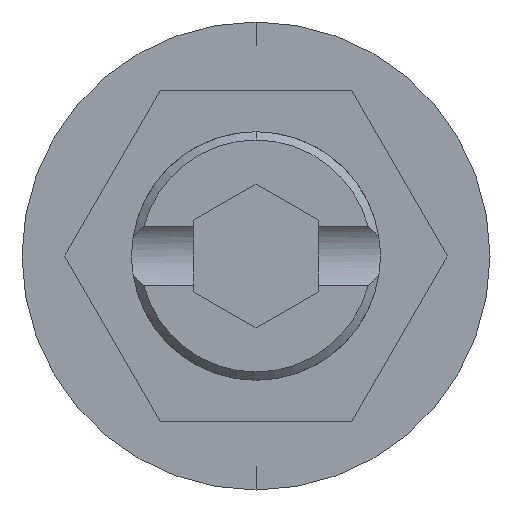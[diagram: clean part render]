
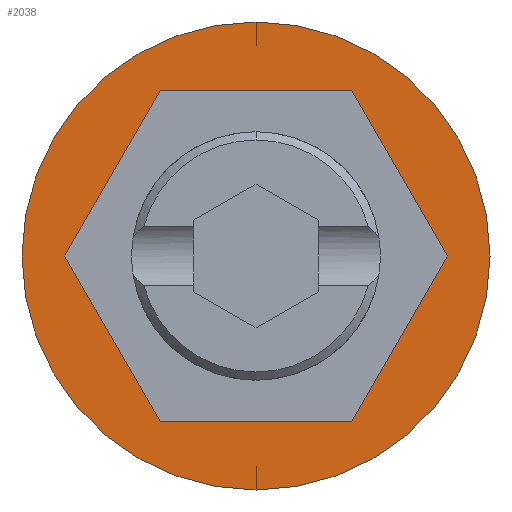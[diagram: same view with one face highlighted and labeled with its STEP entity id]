
A CAD part, front view. The second image highlights one B-rep face of the part: STEP entity #2038.
In plain terms, the highlighted planar face has unit normal (0, -1, 0).
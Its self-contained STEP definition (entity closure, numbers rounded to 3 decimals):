
#51 = CARTESIAN_POINT ( 'NONE',  ( -4.619, 0., 0. ) ) ;
#54 = EDGE_CURVE ( 'NONE', #1698, #853, #1456, .T. ) ;
#89 = AXIS2_PLACEMENT_3D ( 'NONE', #1037, #1406, #1518 ) ;
#155 = VERTEX_POINT ( 'NONE', #1702 ) ;
#162 = CARTESIAN_POINT ( 'NONE',  ( 4.619, 0., 0. ) ) ;
#216 = DIRECTION ( 'NONE',  ( 0.5, 0., -0.866 ) ) ;
#235 = CARTESIAN_POINT ( 'NONE',  ( -4.619, 0., 0. ) ) ;
#281 = VECTOR ( 'NONE', #382, 1000. ) ;
#329 = EDGE_CURVE ( 'NONE', #333, #155, #1865, .T. ) ;
#333 = VERTEX_POINT ( 'NONE', #51 ) ;
#337 = LINE ( 'NONE', #2066, #281 ) ;
#374 = ORIENTED_EDGE ( 'NONE', *, *, #54, .T. ) ;
#382 = DIRECTION ( 'NONE',  ( -0.5, 0., -0.866 ) ) ;
#394 = EDGE_CURVE ( 'NONE', #1560, #1094, #1758, .T. ) ;
#413 = VECTOR ( 'NONE', #1322, 1000. ) ;
#520 = AXIS2_PLACEMENT_3D ( 'NONE', #926, #935, #969 ) ;
#550 = CARTESIAN_POINT ( 'NONE',  ( 2.309, 0., 4. ) ) ;
#567 = CARTESIAN_POINT ( 'NONE',  ( 0., 0., -5.65 ) ) ;
#569 = EDGE_CURVE ( 'NONE', #940, #1562, #1436, .T. ) ;
#735 = FACE_BOUND ( 'NONE', #2113, .T. ) ;
#755 = CARTESIAN_POINT ( 'NONE',  ( 4.619, 0., 0. ) ) ;
#804 = PLANE ( 'NONE',  #1578 ) ;
#808 = ORIENTED_EDGE ( 'NONE', *, *, #569, .F. ) ;
#853 = VERTEX_POINT ( 'NONE', #567 ) ;
#866 = VECTOR ( 'NONE', #1744, 1000. ) ;
#883 = ORIENTED_EDGE ( 'NONE', *, *, #1626, .F. ) ;
#905 = ORIENTED_EDGE ( 'NONE', *, *, #329, .F. ) ;
#912 = ORIENTED_EDGE ( 'NONE', *, *, #1215, .T. ) ;
#926 = CARTESIAN_POINT ( 'NONE',  ( 0., 0., 0. ) ) ;
#935 = DIRECTION ( 'NONE',  ( 0., -1., 0. ) ) ;
#936 = ORIENTED_EDGE ( 'NONE', *, *, #1508, .F. ) ;
#940 = VERTEX_POINT ( 'NONE', #1469 ) ;
#969 = DIRECTION ( 'NONE',  ( 0., 0., -1. ) ) ;
#970 = CARTESIAN_POINT ( 'NONE',  ( -2.309, 0., 4. ) ) ;
#978 = VECTOR ( 'NONE', #216, 1000. ) ;
#1037 = CARTESIAN_POINT ( 'NONE',  ( 0., 0., 0. ) ) ;
#1046 = ORIENTED_EDGE ( 'NONE', *, *, #1342, .F. ) ;
#1094 = VERTEX_POINT ( 'NONE', #970 ) ;
#1133 = CARTESIAN_POINT ( 'NONE',  ( 2.309, 0., -4. ) ) ;
#1215 = EDGE_CURVE ( 'NONE', #853, #1698, #1615, .T. ) ;
#1267 = DIRECTION ( 'NONE',  ( -0.5, 0., 0.866 ) ) ;
#1309 = CARTESIAN_POINT ( 'NONE',  ( 0., 0., 0. ) ) ;
#1318 = DIRECTION ( 'NONE',  ( 0., -1., 0. ) ) ;
#1322 = DIRECTION ( 'NONE',  ( 1., 0., 0. ) ) ;
#1342 = EDGE_CURVE ( 'NONE', #1094, #333, #337, .T. ) ;
#1406 = DIRECTION ( 'NONE',  ( 0., -1., 0. ) ) ;
#1436 = LINE ( 'NONE', #1133, #1774 ) ;
#1456 = CIRCLE ( 'NONE', #89, 5.65 ) ;
#1469 = CARTESIAN_POINT ( 'NONE',  ( 2.309, 0., -4. ) ) ;
#1470 = DIRECTION ( 'NONE',  ( 0., 0., -1. ) ) ;
#1501 = CARTESIAN_POINT ( 'NONE',  ( -2.309, 0., -4. ) ) ;
#1508 = EDGE_CURVE ( 'NONE', #155, #940, #1737, .T. ) ;
#1518 = DIRECTION ( 'NONE',  ( 0., 0., -1. ) ) ;
#1546 = ORIENTED_EDGE ( 'NONE', *, *, #394, .F. ) ;
#1560 = VERTEX_POINT ( 'NONE', #550 ) ;
#1562 = VERTEX_POINT ( 'NONE', #162 ) ;
#1575 = CARTESIAN_POINT ( 'NONE',  ( 0., 0., 5.65 ) ) ;
#1578 = AXIS2_PLACEMENT_3D ( 'NONE', #1309, #1318, #1470 ) ;
#1615 = CIRCLE ( 'NONE', #520, 5.65 ) ;
#1626 = EDGE_CURVE ( 'NONE', #1562, #1560, #2025, .T. ) ;
#1639 = FACE_OUTER_BOUND ( 'NONE', #1700, .T. ) ;
#1698 = VERTEX_POINT ( 'NONE', #1575 ) ;
#1700 = EDGE_LOOP ( 'NONE', ( #912, #374 ) ) ;
#1702 = CARTESIAN_POINT ( 'NONE',  ( -2.309, 0., -4. ) ) ;
#1737 = LINE ( 'NONE', #1501, #413 ) ;
#1744 = DIRECTION ( 'NONE',  ( -1., 0., 0. ) ) ;
#1758 = LINE ( 'NONE', #1924, #866 ) ;
#1774 = VECTOR ( 'NONE', #2134, 1000. ) ;
#1865 = LINE ( 'NONE', #235, #978 ) ;
#1873 = VECTOR ( 'NONE', #1267, 1000. ) ;
#1924 = CARTESIAN_POINT ( 'NONE',  ( 2.309, 0., 4. ) ) ;
#2025 = LINE ( 'NONE', #755, #1873 ) ;
#2038 = ADVANCED_FACE ( 'NONE', ( #735, #1639 ), #804, .T. ) ;
#2066 = CARTESIAN_POINT ( 'NONE',  ( -2.309, 0., 4. ) ) ;
#2113 = EDGE_LOOP ( 'NONE', ( #936, #905, #1046, #1546, #883, #808 ) ) ;
#2134 = DIRECTION ( 'NONE',  ( 0.5, 0., 0.866 ) ) ;
